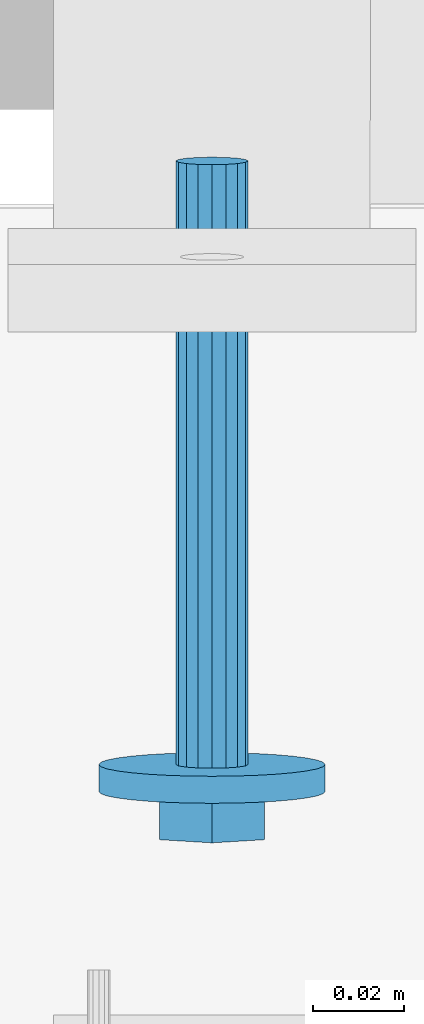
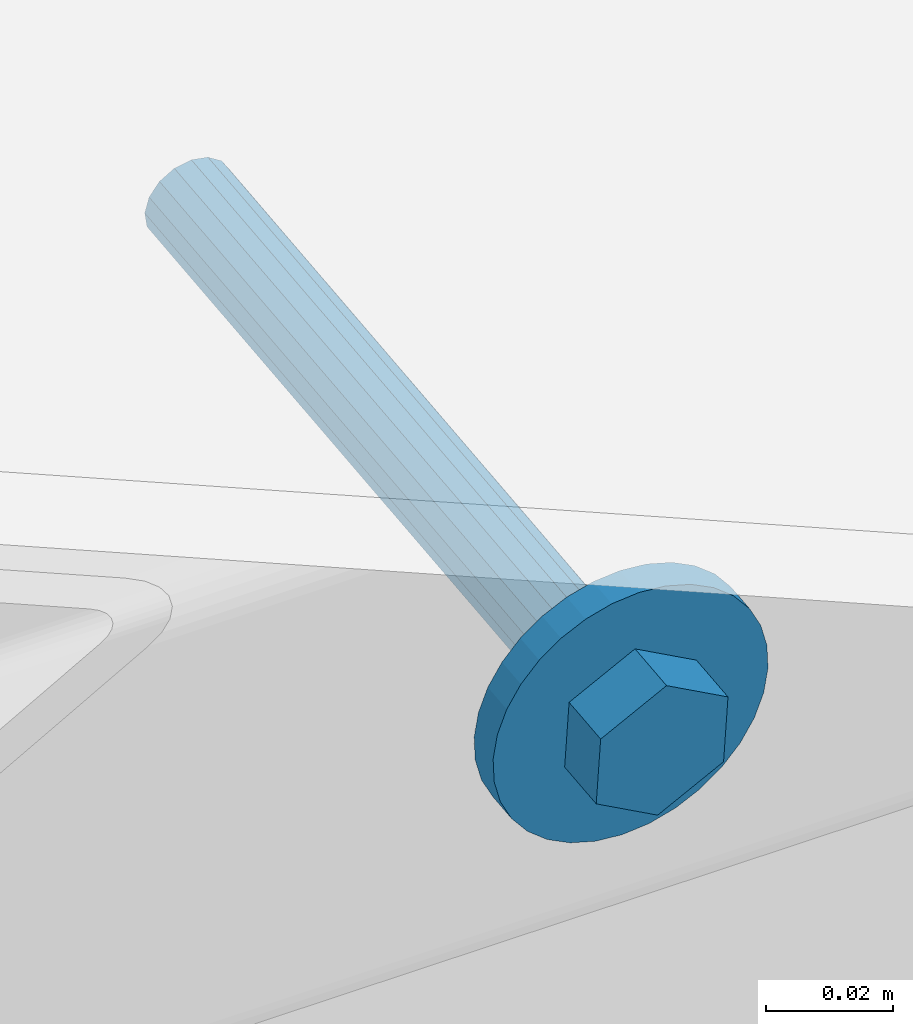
# One storey, part 30 of 116: 1 mechanical fastener.
"""IFC2X3 building model written with IfcOpenShell, lengths in millimetres."""

from ifc_helpers import new_model, entity, si_unit, converted_unit, origin_with_axes, place, context, project, spatial, faceted_brep, element, save


model = new_model("IFC2X3")

# Units and contexts
model_context = context("Model", 3, precision=1e-09, world=origin_with_axes())
ifc_project = project(units=[si_unit("LENGTHUNIT", "METRE", prefix="MILLI"), si_unit("AREAUNIT", "SQUARE_METRE"), si_unit("VOLUMEUNIT", "CUBIC_METRE"), converted_unit("PLANEANGLEUNIT", "DEGREE", entity("IfcPlaneAngleMeasure", 0.01745329), si_unit("PLANEANGLEUNIT", "RADIAN"), dimensions=[0, 0, 0, 0, 0, 0, 0])], contexts=[model_context])

# Site, building, storey
site_placement = place(None, origin_with_axes())
site = spatial("IfcSite", under=ifc_project, at=site_placement, Name="Site", CompositionType="ELEMENT")
building_placement = place(site_placement, origin_with_axes())
building = spatial("IfcBuilding", under=site, at=building_placement, Name="Struktur 1", CompositionType="ELEMENT")
storey_placement = place(building_placement, origin_with_axes())
storey = spatial("IfcBuildingStorey", under=building, at=storey_placement, Name="Default Storey", CompositionType="ELEMENT", Elevation=0.0)

# Mechanical fastener
mechanical_fastener_placement = place(None, origin_with_axes())
element("IfcMechanicalFastener", 1, at=mechanical_fastener_placement, inside=storey, ObjectType="-", NominalDiameter=16.0, NominalLength=140.0, context=model_context, shape_type="Brep", body=[
    faceted_brep([(57902.049134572, 11907.727686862, 2532.979350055), (57902.049134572, 11904.744121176, 2532.665764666), (57901.568766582, 11905.253933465, 2527.815224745), (57901.568766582, 11908.237499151, 2528.128810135), (57900.146122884, 11905.744153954, 2523.151088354), (57900.146122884, 11908.72771964, 2523.464673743), (57897.835874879, 11906.195943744, 2518.852595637), (57897.835874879, 11909.17950943, 2519.166181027), (57894.726804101, 11906.591940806, 2515.084935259), (57894.726804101, 11909.575506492, 2515.398520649), (57890.938390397, 11906.916927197, 2511.992896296), (57890.938390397, 11909.900492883, 2512.306481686), (57886.616220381, 11907.158413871, 2509.695304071), (57886.616220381, 11910.141979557, 2510.008889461), (57881.926392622, 11907.30712063, 2508.280453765), (57881.926392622, 11910.290686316, 2508.594039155), (57877.049134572, 11907.357332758, 2507.802717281), (57877.049134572, 11910.340898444, 2508.116302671), (57872.171876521, 11907.30712063, 2508.280453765), (57872.171876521, 11910.290686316, 2508.594039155), (57867.482048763, 11907.158413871, 2509.695304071), (57867.482048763, 11910.141979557, 2510.008889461), (57863.159878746, 11906.916927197, 2511.992896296), (57863.159878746, 11909.900492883, 2512.306481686), (57859.371465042, 11906.591940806, 2515.084935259), (57859.371465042, 11909.575506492, 2515.398520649), (57856.262394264, 11906.195943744, 2518.852595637), (57856.262394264, 11909.17950943, 2519.166181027), (57853.952146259, 11905.744153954, 2523.151088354), (57853.952146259, 11908.72771964, 2523.464673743), (57852.529502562, 11905.253933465, 2527.815224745), (57852.529502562, 11908.237499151, 2528.128810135), (57852.049134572, 11904.744121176, 2532.665764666), (57852.049134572, 11907.727686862, 2532.979350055), (57852.529502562, 11904.234308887, 2537.516304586), (57852.529502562, 11907.217874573, 2537.829889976), (57853.952146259, 11903.744088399, 2542.180440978), (57853.952146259, 11906.727654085, 2542.494026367), (57856.262394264, 11903.292298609, 2546.478933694), (57856.262394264, 11906.275864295, 2546.792519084), (57859.371465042, 11902.896301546, 2550.246594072), (57859.371465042, 11905.879867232, 2550.560179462), (57863.159878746, 11902.571315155, 2553.338633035), (57863.159878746, 11905.554880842, 2553.652218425), (57867.482048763, 11902.329828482, 2555.63622526), (57867.482048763, 11905.313394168, 2555.94981065), (57872.171876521, 11902.181121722, 2557.051075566), (57872.171876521, 11905.164687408, 2557.364660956), (57877.049134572, 11902.130909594, 2557.52881205), (57877.049134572, 11905.114475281, 2557.84239744), (57881.926392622, 11902.181121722, 2557.051075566), (57881.926392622, 11905.164687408, 2557.364660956), (57886.616220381, 11902.329828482, 2555.63622526), (57886.616220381, 11905.313394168, 2555.94981065), (57890.938390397, 11902.571315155, 2553.338633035), (57890.938390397, 11905.554880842, 2553.652218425), (57894.726804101, 11902.896301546, 2550.246594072), (57894.726804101, 11905.879867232, 2550.560179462), (57897.835874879, 11903.292298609, 2546.478933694), (57897.835874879, 11906.275864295, 2546.792519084), (57900.146122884, 11903.744088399, 2542.180440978), (57900.146122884, 11906.727654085, 2542.494026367), (57901.568766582, 11904.234308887, 2537.516304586), (57901.568766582, 11907.217874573, 2537.829889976)], [[[0, 1, 2, 3]], [[3, 2, 4, 5]], [[5, 4, 6, 7]], [[7, 6, 8, 9]], [[9, 8, 10, 11]], [[11, 10, 12, 13]], [[13, 12, 14, 15]], [[15, 14, 16, 17]], [[17, 16, 18, 19]], [[19, 18, 20, 21]], [[21, 20, 22, 23]], [[23, 22, 24, 25]], [[25, 24, 26, 27]], [[27, 26, 28, 29]], [[29, 28, 30, 31]], [[31, 30, 32, 33]], [[33, 32, 34, 35]], [[35, 34, 36, 37]], [[37, 36, 38, 39]], [[39, 38, 40, 41]], [[41, 40, 42, 43]], [[43, 42, 44, 45]], [[45, 44, 46, 47]], [[47, 46, 48, 49]], [[49, 48, 50, 51]], [[51, 50, 52, 53]], [[53, 52, 54, 55]], [[55, 54, 56, 57]], [[57, 56, 58, 59]], [[59, 58, 60, 61]], [[61, 60, 62, 63]], [[63, 62, 1, 0]], [[2, 1, 62, 60, 58, 56, 54, 52, 50, 48, 46, 44, 42, 40, 38, 36, 34, 32, 30, 28, 26, 24, 22, 20, 18, 16, 14, 12, 10, 8, 6, 4]], [[63, 0, 3, 5, 7, 9, 11, 13, 15, 17, 19, 21, 23, 25, 27, 29, 31, 33, 35, 37, 39, 41, 43, 45, 47, 49, 51, 53, 55, 57, 59, 61]]]),
    faceted_brep([(57902.049134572, 11904.744121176, 2532.665764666), (57902.049134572, 11901.76055549, 2532.352179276), (57901.568766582, 11902.270367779, 2527.501639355), (57901.568766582, 11905.253933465, 2527.815224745), (57900.146122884, 11902.760588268, 2522.837502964), (57900.146122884, 11905.744153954, 2523.151088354), (57897.835874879, 11903.212378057, 2518.539010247), (57897.835874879, 11906.195943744, 2518.852595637), (57894.726804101, 11903.60837512, 2514.771349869), (57894.726804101, 11906.591940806, 2515.084935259), (57890.938390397, 11903.933361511, 2511.679310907), (57890.938390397, 11906.916927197, 2511.992896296), (57886.616220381, 11904.174848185, 2509.381718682), (57886.616220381, 11907.158413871, 2509.695304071), (57881.926392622, 11904.323554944, 2507.966868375), (57881.926392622, 11907.30712063, 2508.280453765), (57877.049134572, 11904.373767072, 2507.489131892), (57877.049134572, 11907.357332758, 2507.802717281), (57872.171876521, 11904.323554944, 2507.966868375), (57872.171876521, 11907.30712063, 2508.280453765), (57867.482048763, 11904.174848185, 2509.381718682), (57867.482048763, 11907.158413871, 2509.695304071), (57863.159878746, 11903.933361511, 2511.679310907), (57863.159878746, 11906.916927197, 2511.992896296), (57859.371465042, 11903.60837512, 2514.771349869), (57859.371465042, 11906.591940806, 2515.084935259), (57856.262394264, 11903.212378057, 2518.539010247), (57856.262394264, 11906.195943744, 2518.852595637), (57853.952146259, 11902.760588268, 2522.837502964), (57853.952146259, 11905.744153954, 2523.151088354), (57852.529502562, 11902.270367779, 2527.501639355), (57852.529502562, 11905.253933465, 2527.815224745), (57852.049134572, 11901.76055549, 2532.352179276), (57852.049134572, 11904.744121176, 2532.665764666), (57852.529502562, 11901.250743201, 2537.202719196), (57852.529502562, 11904.234308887, 2537.516304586), (57853.952146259, 11900.760522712, 2541.866855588), (57853.952146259, 11903.744088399, 2542.180440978), (57856.262394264, 11900.308732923, 2546.165348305), (57856.262394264, 11903.292298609, 2546.478933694), (57859.371465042, 11899.91273586, 2549.933008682), (57859.371465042, 11902.896301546, 2550.246594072), (57863.159878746, 11899.587749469, 2553.025047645), (57863.159878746, 11902.571315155, 2553.338633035), (57867.482048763, 11899.346262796, 2555.32263987), (57867.482048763, 11902.329828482, 2555.63622526), (57872.171876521, 11899.197556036, 2556.737490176), (57872.171876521, 11902.181121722, 2557.051075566), (57877.049134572, 11899.147343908, 2557.21522666), (57877.049134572, 11902.130909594, 2557.52881205), (57881.926392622, 11899.197556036, 2556.737490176), (57881.926392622, 11902.181121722, 2557.051075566), (57886.616220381, 11899.346262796, 2555.32263987), (57886.616220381, 11902.329828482, 2555.63622526), (57890.938390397, 11899.587749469, 2553.025047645), (57890.938390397, 11902.571315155, 2553.338633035), (57894.726804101, 11899.91273586, 2549.933008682), (57894.726804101, 11902.896301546, 2550.246594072), (57897.835874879, 11900.308732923, 2546.165348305), (57897.835874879, 11903.292298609, 2546.478933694), (57900.146122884, 11900.760522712, 2541.866855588), (57900.146122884, 11903.744088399, 2542.180440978), (57901.568766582, 11901.250743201, 2537.202719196), (57901.568766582, 11904.234308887, 2537.516304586)], [[[0, 1, 2, 3]], [[3, 2, 4, 5]], [[5, 4, 6, 7]], [[7, 6, 8, 9]], [[9, 8, 10, 11]], [[11, 10, 12, 13]], [[13, 12, 14, 15]], [[15, 14, 16, 17]], [[17, 16, 18, 19]], [[19, 18, 20, 21]], [[21, 20, 22, 23]], [[23, 22, 24, 25]], [[25, 24, 26, 27]], [[27, 26, 28, 29]], [[29, 28, 30, 31]], [[31, 30, 32, 33]], [[33, 32, 34, 35]], [[35, 34, 36, 37]], [[37, 36, 38, 39]], [[39, 38, 40, 41]], [[41, 40, 42, 43]], [[43, 42, 44, 45]], [[45, 44, 46, 47]], [[47, 46, 48, 49]], [[49, 48, 50, 51]], [[51, 50, 52, 53]], [[53, 52, 54, 55]], [[55, 54, 56, 57]], [[57, 56, 58, 59]], [[59, 58, 60, 61]], [[61, 60, 62, 63]], [[63, 62, 1, 0]], [[2, 1, 62, 60, 58, 56, 54, 52, 50, 48, 46, 44, 42, 40, 38, 36, 34, 32, 30, 28, 26, 24, 22, 20, 18, 16, 14, 12, 10, 8, 6, 4]], [[63, 0, 3, 5, 7, 9, 11, 13, 15, 17, 19, 21, 23, 25, 27, 29, 31, 33, 35, 37, 39, 41, 43, 45, 47, 49, 51, 53, 55, 57, 59, 61]]]),
    faceted_brep([(57865.466044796, 11892.514370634, 2524.656029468), (57865.466044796, 11902.459589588, 2525.701314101), (57877.049134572, 11903.158623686, 2519.050448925), (57877.049134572, 11893.213404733, 2518.005164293), (57888.632224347, 11902.459589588, 2525.701314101), (57888.632224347, 11892.514370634, 2524.656029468), (57888.632224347, 11901.061521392, 2539.003044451), (57888.632224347, 11891.116302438, 2537.957759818), (57877.049134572, 11900.362487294, 2545.653909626), (57877.049134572, 11890.41726834, 2544.608624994), (57865.466044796, 11901.061521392, 2539.003044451), (57865.466044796, 11891.116302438, 2537.957759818)], [[[0, 1, 2, 3]], [[3, 2, 4, 5]], [[5, 4, 6, 7]], [[7, 6, 8, 9]], [[9, 8, 10, 11]], [[11, 10, 1, 0]], [[3, 5, 7, 9, 11, 0]], [[2, 1, 10, 8, 6, 4]]]),
    faceted_brep([(57885.049134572, 12022.096531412, 2545.0), (57885.049134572, 11907.727686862, 2532.979350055), (57884.440170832, 11908.047697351, 2529.934653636), (57884.440170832, 12022.416541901, 2541.95530358), (57882.705988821, 11908.318989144, 2527.353484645), (57882.705988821, 12022.687833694, 2539.37413459), (57880.110602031, 11908.500260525, 2525.628802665), (57880.110602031, 12022.869105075, 2537.64945261), (57877.049134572, 11908.563914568, 2525.023174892), (57877.049134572, 12022.932759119, 2537.043824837), (57873.987667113, 11908.500260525, 2525.628802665), (57873.987667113, 12022.869105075, 2537.64945261), (57871.392280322, 11908.318989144, 2527.353484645), (57871.392280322, 12022.687833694, 2539.37413459), (57869.658098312, 11908.047697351, 2529.934653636), (57869.658098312, 12022.416541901, 2541.95530358), (57869.049134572, 11907.727686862, 2532.979350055), (57869.049134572, 12022.096531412, 2545.0), (57869.658098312, 11907.407676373, 2536.024046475), (57869.658098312, 12021.776520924, 2548.04469642), (57871.392280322, 11907.136384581, 2538.605215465), (57871.392280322, 12021.505229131, 2550.62586541), (57873.987667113, 11906.9551132, 2540.329897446), (57873.987667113, 12021.32395775, 2552.35054739), (57877.049134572, 11906.891459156, 2540.935525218), (57877.049134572, 12021.260303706, 2552.956175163), (57880.110602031, 11906.9551132, 2540.329897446), (57880.110602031, 12021.32395775, 2552.35054739), (57882.705988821, 11907.136384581, 2538.605215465), (57882.705988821, 12021.505229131, 2550.62586541), (57884.440170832, 11907.407676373, 2536.024046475), (57884.440170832, 12021.776520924, 2548.04469642)], [[[0, 1, 2, 3]], [[3, 2, 4, 5]], [[5, 4, 6, 7]], [[7, 6, 8, 9]], [[9, 8, 10, 11]], [[11, 10, 12, 13]], [[13, 12, 14, 15]], [[15, 14, 16, 17]], [[17, 16, 18, 19]], [[19, 18, 20, 21]], [[21, 20, 22, 23]], [[23, 22, 24, 25]], [[25, 24, 26, 27]], [[27, 26, 28, 29]], [[29, 28, 30, 31]], [[31, 30, 1, 0]], [[2, 1, 30, 28, 26, 24, 22, 20, 18, 16, 14, 12, 10, 8, 6, 4]], [[31, 0, 3, 5, 7, 9, 11, 13, 15, 17, 19, 21, 23, 25, 27, 29]]]),
    faceted_brep([(57885.049134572, 12040.993620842, 2546.986164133), (57885.049134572, 12022.096531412, 2545.0), (57884.440170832, 12022.416541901, 2541.95530358), (57884.440170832, 12041.31363133, 2543.941467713), (57882.705988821, 12022.687833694, 2539.37413459), (57882.705988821, 12041.584923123, 2541.360298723), (57880.110602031, 12022.869105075, 2537.64945261), (57880.110602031, 12041.766194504, 2539.635616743), (57877.049134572, 12022.932759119, 2537.043824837), (57877.049134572, 12041.829848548, 2539.02998897), (57873.987667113, 12022.869105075, 2537.64945261), (57873.987667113, 12041.766194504, 2539.635616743), (57871.392280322, 12022.687833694, 2539.37413459), (57871.392280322, 12041.584923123, 2541.360298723), (57869.658098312, 12022.416541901, 2541.95530358), (57869.658098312, 12041.31363133, 2543.941467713), (57869.049134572, 12022.096531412, 2545.0), (57869.049134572, 12040.993620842, 2546.986164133), (57869.658098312, 12021.776520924, 2548.04469642), (57869.658098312, 12040.673610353, 2550.030860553), (57871.392280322, 12021.505229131, 2550.62586541), (57871.392280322, 12040.40231856, 2552.612029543), (57873.987667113, 12021.32395775, 2552.35054739), (57873.987667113, 12040.221047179, 2554.336711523), (57877.049134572, 12021.260303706, 2552.956175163), (57877.049134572, 12040.157393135, 2554.942339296), (57880.110602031, 12021.32395775, 2552.35054739), (57880.110602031, 12040.221047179, 2554.336711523), (57882.705988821, 12021.505229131, 2550.62586541), (57882.705988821, 12040.40231856, 2552.612029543), (57884.440170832, 12021.776520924, 2548.04469642), (57884.440170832, 12040.673610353, 2550.030860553)], [[[0, 1, 2, 3]], [[3, 2, 4, 5]], [[5, 4, 6, 7]], [[7, 6, 8, 9]], [[9, 8, 10, 11]], [[11, 10, 12, 13]], [[13, 12, 14, 15]], [[15, 14, 16, 17]], [[17, 16, 18, 19]], [[19, 18, 20, 21]], [[21, 20, 22, 23]], [[23, 22, 24, 25]], [[25, 24, 26, 27]], [[27, 26, 28, 29]], [[29, 28, 30, 31]], [[31, 30, 1, 0]], [[2, 1, 30, 28, 26, 24, 22, 20, 18, 16, 14, 12, 10, 8, 6, 4]], [[31, 0, 3, 5, 7, 9, 11, 13, 15, 17, 19, 21, 23, 25, 27, 29]]]),
])

save(model, "model.ifc")
